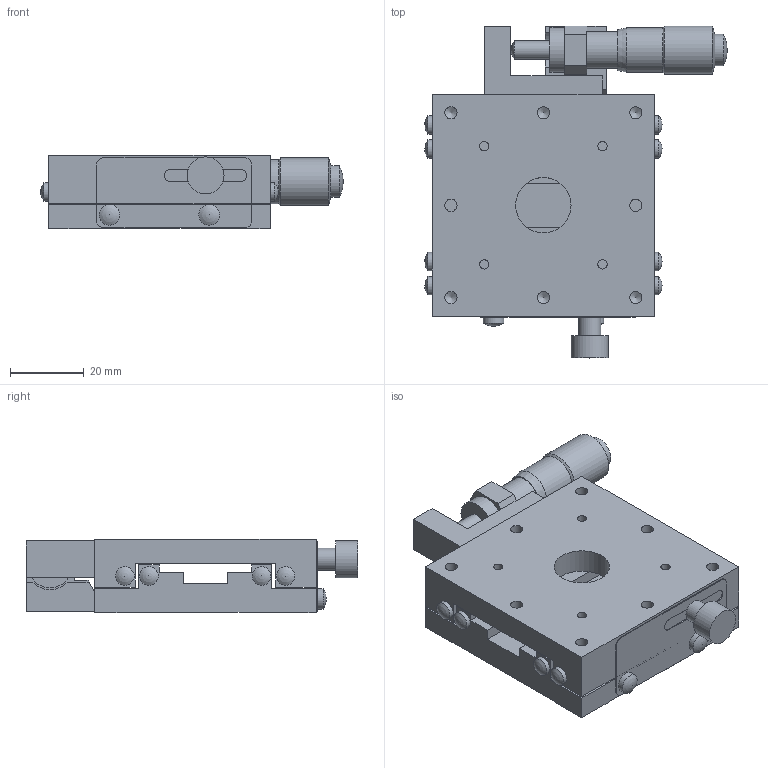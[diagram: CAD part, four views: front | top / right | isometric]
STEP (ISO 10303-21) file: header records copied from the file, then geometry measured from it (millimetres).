
FILE_DESCRIPTION( ( 'STEP AP214' ), '1' );
FILE_NAME( 'C:/Project/3D_B11-60CR-配布-070508.stp', '2007-05-08T10:42:13', ( ' ' ), ( ' ' ), 'XStep 1.0', ' ', ' ' );
FILE_SCHEMA( ( 'automotive_design' ) );
Length unit declared in the file: millimetre
Products named in the file (3): 1; 2; 3
Bounding box: 81.85 x 89.8 x 20 mm (x, y, z)
Volume: 71498.9 mm3; surface area: 30056.5 mm2
Topology: 3 solids, 3 shells, 165 faces, 445 edges, 297 vertices
Faces by surface type: plane 82, cylinder 62, sphere 12, cone 9
Full cylindrical faces by diameter (mm): 2.5 x8, 3 x1, 3.3 x16, 4.5 x4, 5 x10, 5.6 x2, 6 x1, 8 x4, 8.6 x1, 10 x2, 10.5 x1, 12 x2, 13 x1, 15 x1
Entity records: 5743 total; most frequent: DIRECTION 763, CARTESIAN_POINT 729, ORIENTED_EDGE 628, EDGE_CURVE 314, AXIS2_PLACEMENT_3D 281, EDGE_LOOP 277, VERTEX_POINT 247, FACE_OUTER_BOUND 219
